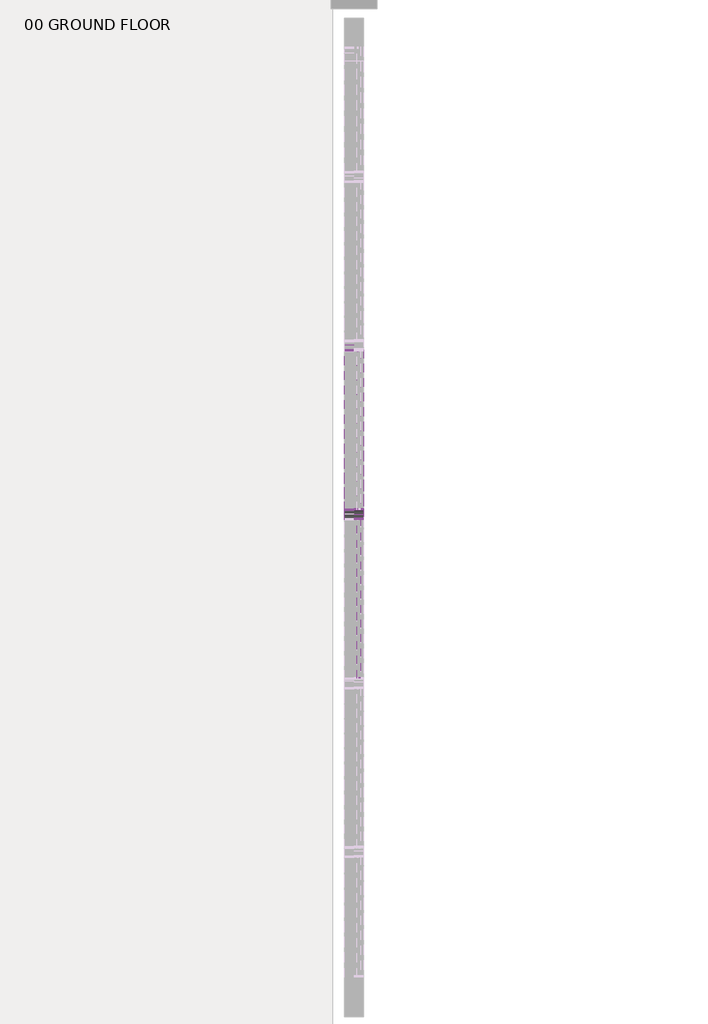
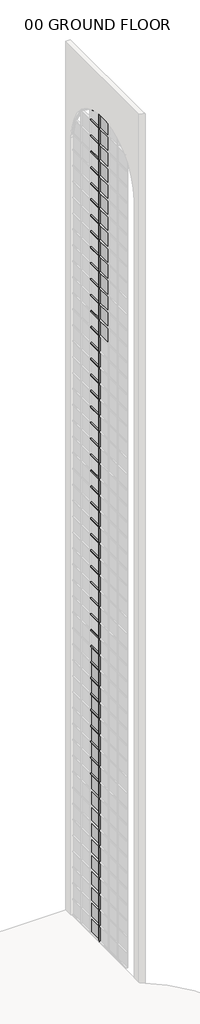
# One storey, part 29 of 33: 95 members, 32 plates.
"""IFC4 building model written with IfcOpenShell, lengths in millimetres."""

from ifc_helpers import new_model, si_unit, origin, place, context, project, spatial, transform, mapped, element, save
from components import member_d1490fb0, member_2b49869a, member_3adf77c9, member_5ea67813, system_panel_glazed_c90b0923, system_panel_glazed_ba000c98, system_panel_glazed_49d2a459

model = new_model("IFC4")

# Units and contexts
model_context = context("Model", 3, world=origin())
ifc_project = project(units=[si_unit("LENGTHUNIT", "METRE", prefix="MILLI")], contexts=[model_context])

# Site, building, storey
site = spatial("IfcSite", under=ifc_project)
building = spatial("IfcBuilding", under=site)
storey = spatial("IfcBuildingStorey", under=building, Name="00 GROUND FLOOR", Elevation=0.0)

# Members
placement = place(None, origin())
member_shape = member_d1490fb0(model_context)
element("IfcMember", 1, ObjectType="Rectangular Mullion : 2.5\" x 5\" rectangular", at=placement, inside=storey, context=model_context, shape_type="MappedRepresentation", body=[
    mapped(member_shape, transform((44184.4050515, 29709.3821428, 12192.0), x_axis=(0.0, 0.0, 1.0), y_axis=(-1.0, 0.0, 0.0), z_axis=(0.0, -1.0, 0.0))),
])
element("IfcMember", 2, ObjectType="Rectangular Mullion : 2.5\" x 5\" rectangular", at=placement, inside=storey, context=model_context, shape_type="MappedRepresentation", body=[
    mapped(member_shape, transform((44184.4050515, 29709.3821428, 13411.2), x_axis=(0.0, 0.0, 1.0), y_axis=(-1.0, 0.0, 0.0), z_axis=(0.0, -1.0, 0.0))),
])
element("IfcMember", 3, ObjectType="Rectangular Mullion : 2.5\" x 5\" rectangular", at=placement, inside=storey, context=model_context, shape_type="MappedRepresentation", body=[
    mapped(member_shape, transform((44184.4050515, 29709.3821428, 14630.4), x_axis=(0.0, 0.0, 1.0), y_axis=(-1.0, 0.0, 0.0), z_axis=(0.0, -1.0, 0.0))),
])
element("IfcMember", 4, ObjectType="Rectangular Mullion : 2.5\" x 5\" rectangular", at=placement, inside=storey, context=model_context, shape_type="MappedRepresentation", body=[
    mapped(member_shape, transform((44184.4050515, 29709.3821428, 15849.6), x_axis=(0.0, 0.0, 1.0), y_axis=(-1.0, 0.0, 0.0), z_axis=(0.0, -1.0, 0.0))),
])
element("IfcMember", 5, ObjectType="Rectangular Mullion : 2.5\" x 5\" rectangular", at=placement, inside=storey, context=model_context, shape_type="MappedRepresentation", body=[
    mapped(member_shape, transform((44184.4050515, 29709.3821428, 17068.8), x_axis=(0.0, 0.0, 1.0), y_axis=(-1.0, 0.0, 0.0), z_axis=(0.0, -1.0, 0.0))),
])
element("IfcMember", 6, ObjectType="Rectangular Mullion : 2.5\" x 5\" rectangular", at=placement, inside=storey, context=model_context, shape_type="MappedRepresentation", body=[
    mapped(member_shape, transform((44184.4050515, 29709.3821428, 18288.0), x_axis=(0.0, 0.0, 1.0), y_axis=(-1.0, 0.0, 0.0), z_axis=(0.0, -1.0, 0.0))),
])
element("IfcMember", 7, ObjectType="Rectangular Mullion : 2.5\" x 5\" rectangular", at=placement, inside=storey, context=model_context, shape_type="MappedRepresentation", body=[
    mapped(member_shape, transform((44184.4050515, 29709.3821428, 19507.2), x_axis=(0.0, 0.0, 1.0), y_axis=(-1.0, 0.0, 0.0), z_axis=(0.0, -1.0, 0.0))),
])
element("IfcMember", 8, ObjectType="Rectangular Mullion : 2.5\" x 5\" rectangular", at=placement, inside=storey, context=model_context, shape_type="MappedRepresentation", body=[
    mapped(member_shape, transform((44184.4050515, 29709.3821428, 20726.4), x_axis=(0.0, 0.0, 1.0), y_axis=(-1.0, 0.0, 0.0), z_axis=(0.0, -1.0, 0.0))),
])
element("IfcMember", 9, ObjectType="Rectangular Mullion : 2.5\" x 5\" rectangular", at=placement, inside=storey, context=model_context, shape_type="MappedRepresentation", body=[
    mapped(member_shape, transform((44184.4050515, 29709.3821428, 21945.6), x_axis=(0.0, 0.0, 1.0), y_axis=(-1.0, 0.0, 0.0), z_axis=(0.0, -1.0, 0.0))),
])
element("IfcMember", 10, ObjectType="Rectangular Mullion : 2.5\" x 5\" rectangular", at=placement, inside=storey, context=model_context, shape_type="MappedRepresentation", body=[
    mapped(member_shape, transform((44184.4050515, 29709.3821428, 23164.8), x_axis=(0.0, 0.0, 1.0), y_axis=(-1.0, 0.0, 0.0), z_axis=(0.0, -1.0, 0.0))),
])
element("IfcMember", 11, ObjectType="Rectangular Mullion : 2.5\" x 5\" rectangular", at=placement, inside=storey, context=model_context, shape_type="MappedRepresentation", body=[
    mapped(member_shape, transform((44184.4050515, 29709.3821428, 24384.0), x_axis=(0.0, 0.0, 1.0), y_axis=(-1.0, 0.0, 0.0), z_axis=(0.0, -1.0, 0.0))),
])
element("IfcMember", 12, ObjectType="Rectangular Mullion : 2.5\" x 5\" rectangular", at=placement, inside=storey, context=model_context, shape_type="MappedRepresentation", body=[
    mapped(member_shape, transform((44184.4050515, 29709.3821428, 25603.2), x_axis=(0.0, 0.0, 1.0), y_axis=(-1.0, 0.0, 0.0), z_axis=(0.0, -1.0, 0.0))),
])
element("IfcMember", 13, ObjectType="Rectangular Mullion : 2.5\" x 5\" rectangular", at=placement, inside=storey, context=model_context, shape_type="MappedRepresentation", body=[
    mapped(member_shape, transform((44184.4050515, 29709.3821428, 26822.4), x_axis=(0.0, 0.0, 1.0), y_axis=(-1.0, 0.0, 0.0), z_axis=(0.0, -1.0, 0.0))),
])
element("IfcMember", 14, ObjectType="Rectangular Mullion : 2.5\" x 5\" rectangular", at=placement, inside=storey, context=model_context, shape_type="MappedRepresentation", body=[
    mapped(member_shape, transform((44184.4050515, 29709.3821428, 28041.6), x_axis=(0.0, 0.0, 1.0), y_axis=(-1.0, 0.0, 0.0), z_axis=(0.0, -1.0, 0.0))),
])
element("IfcMember", 15, ObjectType="Rectangular Mullion : 2.5\" x 5\" rectangular", at=placement, inside=storey, context=model_context, shape_type="MappedRepresentation", body=[
    mapped(member_shape, transform((44184.4050515, 29709.3821428, 29260.8), x_axis=(0.0, 0.0, 1.0), y_axis=(-1.0, 0.0, 0.0), z_axis=(0.0, -1.0, 0.0))),
])
element("IfcMember", 16, ObjectType="Rectangular Mullion : 2.5\" x 5\" rectangular", at=placement, inside=storey, context=model_context, shape_type="MappedRepresentation", body=[
    mapped(member_shape, transform((44184.4050515, 29709.3821428, 30480.0), x_axis=(0.0, 0.0, 1.0), y_axis=(-1.0, 0.0, 0.0), z_axis=(0.0, -1.0, 0.0))),
])
element("IfcMember", 17, ObjectType="Rectangular Mullion : 2.5\" x 5\" rectangular", at=placement, inside=storey, context=model_context, shape_type="MappedRepresentation", body=[
    mapped(member_shape, transform((44184.4050515, 29709.3821428, 31699.2), x_axis=(0.0, 0.0, 1.0), y_axis=(-1.0, 0.0, 0.0), z_axis=(0.0, -1.0, 0.0))),
])
element("IfcMember", 18, ObjectType="Rectangular Mullion : 2.5\" x 5\" rectangular", at=placement, inside=storey, context=model_context, shape_type="MappedRepresentation", body=[
    mapped(member_shape, transform((44184.4050515, 29709.3821428, 32918.4), x_axis=(0.0, 0.0, 1.0), y_axis=(-1.0, 0.0, 0.0), z_axis=(0.0, -1.0, 0.0))),
])
element("IfcMember", 19, ObjectType="Rectangular Mullion : 2.5\" x 5\" rectangular", at=placement, inside=storey, context=model_context, shape_type="MappedRepresentation", body=[
    mapped(member_shape, transform((44184.4050515, 29709.3821428, 34137.6), x_axis=(0.0, 0.0, 1.0), y_axis=(-1.0, 0.0, 0.0), z_axis=(0.0, -1.0, 0.0))),
])
element("IfcMember", 20, ObjectType="Rectangular Mullion : 2.5\" x 5\" rectangular", at=placement, inside=storey, context=model_context, shape_type="MappedRepresentation", body=[
    mapped(member_shape, transform((44184.4050515, 29709.3821428, 35356.8), x_axis=(0.0, 0.0, 1.0), y_axis=(-1.0, 0.0, 0.0), z_axis=(0.0, -1.0, 0.0))),
])
element("IfcMember", 21, ObjectType="Rectangular Mullion : 2.5\" x 5\" rectangular", at=placement, inside=storey, context=model_context, shape_type="MappedRepresentation", body=[
    mapped(member_shape, transform((44184.4050515, 29709.3821428, 36576.0), x_axis=(0.0, 0.0, 1.0), y_axis=(-1.0, 0.0, 0.0), z_axis=(0.0, -1.0, 0.0))),
])
element("IfcMember", 22, ObjectType="Rectangular Mullion : 2.5\" x 5\" rectangular", at=placement, inside=storey, context=model_context, shape_type="MappedRepresentation", body=[
    mapped(member_shape, transform((44184.4050515, 29709.3821428, 37795.2), x_axis=(0.0, 0.0, 1.0), y_axis=(-1.0, 0.0, 0.0), z_axis=(0.0, -1.0, 0.0))),
])
element("IfcMember", 23, ObjectType="Rectangular Mullion : 2.5\" x 5\" rectangular", at=placement, inside=storey, context=model_context, shape_type="MappedRepresentation", body=[
    mapped(member_shape, transform((44184.4050515, 29709.3821428, 39014.4), x_axis=(0.0, 0.0, 1.0), y_axis=(-1.0, 0.0, 0.0), z_axis=(0.0, -1.0, 0.0))),
])
element("IfcMember", 24, ObjectType="Rectangular Mullion : 2.5\" x 5\" rectangular", at=placement, inside=storey, context=model_context, shape_type="MappedRepresentation", body=[
    mapped(member_shape, transform((44184.4050515, 29709.3821428, 40233.6), x_axis=(0.0, 0.0, 1.0), y_axis=(-1.0, 0.0, 0.0), z_axis=(0.0, -1.0, 0.0))),
])
element("IfcMember", 25, ObjectType="Rectangular Mullion : 2.5\" x 5\" rectangular", at=placement, inside=storey, context=model_context, shape_type="MappedRepresentation", body=[
    mapped(member_shape, transform((44184.4050515, 29709.3821428, 41452.8), x_axis=(0.0, 0.0, 1.0), y_axis=(-1.0, 0.0, 0.0), z_axis=(0.0, -1.0, 0.0))),
])
element("IfcMember", 26, ObjectType="Rectangular Mullion : 2.5\" x 5\" rectangular", at=placement, inside=storey, context=model_context, shape_type="MappedRepresentation", body=[
    mapped(member_shape, transform((44184.4050515, 29709.3821428, 42672.0), x_axis=(0.0, 0.0, 1.0), y_axis=(-1.0, 0.0, 0.0), z_axis=(0.0, -1.0, 0.0))),
])
element("IfcMember", 27, ObjectType="Rectangular Mullion : 2.5\" x 5\" rectangular", at=placement, inside=storey, context=model_context, shape_type="MappedRepresentation", body=[
    mapped(member_shape, transform((44184.4050515, 29709.3821428, 43891.2), x_axis=(0.0, 0.0, 1.0), y_axis=(-1.0, 0.0, 0.0), z_axis=(0.0, -1.0, 0.0))),
])
element("IfcMember", 28, ObjectType="Rectangular Mullion : 2.5\" x 5\" rectangular", at=placement, inside=storey, context=model_context, shape_type="MappedRepresentation", body=[
    mapped(member_shape, transform((44184.4050515, 29709.3821428, 45110.4), x_axis=(0.0, 0.0, 1.0), y_axis=(-1.0, 0.0, 0.0), z_axis=(0.0, -1.0, 0.0))),
])
element("IfcMember", 29, ObjectType="Rectangular Mullion : 2.5\" x 5\" rectangular", at=placement, inside=storey, context=model_context, shape_type="MappedRepresentation", body=[
    mapped(member_shape, transform((44184.4050515, 29709.3821428, 46329.6), x_axis=(0.0, 0.0, 1.0), y_axis=(-1.0, 0.0, 0.0), z_axis=(0.0, -1.0, 0.0))),
])
element("IfcMember", 30, ObjectType="Rectangular Mullion : 2.5\" x 5\" rectangular", at=placement, inside=storey, context=model_context, shape_type="MappedRepresentation", body=[
    mapped(member_shape, transform((44184.4050515, 29709.3821428, 47548.8), x_axis=(0.0, 0.0, 1.0), y_axis=(-1.0, 0.0, 0.0), z_axis=(0.0, -1.0, 0.0))),
])
element("IfcMember", 31, ObjectType="Rectangular Mullion : 2.5\" x 5\" rectangular", at=placement, inside=storey, context=model_context, shape_type="MappedRepresentation", body=[
    mapped(member_shape, transform((44184.4050515, 29709.3821428, 48768.0), x_axis=(0.0, 0.0, 1.0), y_axis=(-1.0, 0.0, 0.0), z_axis=(0.0, -1.0, 0.0))),
])
element("IfcMember", 32, ObjectType="Rectangular Mullion : 2.5\" x 5\" rectangular", at=placement, inside=storey, context=model_context, shape_type="MappedRepresentation", body=[
    mapped(member_shape, transform((44184.4050515, 29709.3821428, 49987.2), x_axis=(0.0, 0.0, 1.0), y_axis=(-1.0, 0.0, 0.0), z_axis=(0.0, -1.0, 0.0))),
])
element("IfcMember", 33, ObjectType="Rectangular Mullion : 2.5\" x 5\" rectangular", at=placement, inside=storey, context=model_context, shape_type="MappedRepresentation", body=[
    mapped(member_shape, transform((44184.4050515, 29709.3821428, 51206.4), x_axis=(0.0, 0.0, 1.0), y_axis=(-1.0, 0.0, 0.0), z_axis=(0.0, -1.0, 0.0))),
])
element("IfcMember", 34, ObjectType="Rectangular Mullion : 2.5\" x 5\" rectangular", at=placement, inside=storey, context=model_context, shape_type="MappedRepresentation", body=[
    mapped(member_shape, transform((44184.4050515, 29709.3821428, 52425.6), x_axis=(0.0, 0.0, 1.0), y_axis=(-1.0, 0.0, 0.0), z_axis=(0.0, -1.0, 0.0))),
])
element("IfcMember", 35, ObjectType="Rectangular Mullion : 2.5\" x 5\" rectangular", at=placement, inside=storey, context=model_context, shape_type="MappedRepresentation", body=[
    mapped(member_shape, transform((44184.4050515, 29709.3821428, 53644.8), x_axis=(0.0, 0.0, 1.0), y_axis=(-1.0, 0.0, 0.0), z_axis=(0.0, -1.0, 0.0))),
])
element("IfcMember", 36, ObjectType="Rectangular Mullion : 2.5\" x 5\" rectangular", at=placement, inside=storey, context=model_context, shape_type="MappedRepresentation", body=[
    mapped(member_shape, transform((44184.4050515, 29709.3821428, 54864.0), x_axis=(0.0, 0.0, 1.0), y_axis=(-1.0, 0.0, 0.0), z_axis=(0.0, -1.0, 0.0))),
])
element("IfcMember", 37, ObjectType="Rectangular Mullion : 2.5\" x 5\" rectangular", at=placement, inside=storey, context=model_context, shape_type="MappedRepresentation", body=[
    mapped(member_shape, transform((44184.4050515, 29709.3821428, 56083.2), x_axis=(0.0, 0.0, 1.0), y_axis=(-1.0, 0.0, 0.0), z_axis=(0.0, -1.0, 0.0))),
])
element("IfcMember", 38, ObjectType="Rectangular Mullion : 2.5\" x 5\" rectangular", at=placement, inside=storey, context=model_context, shape_type="MappedRepresentation", body=[
    mapped(member_shape, transform((44184.4050515, 29709.3821428, 57302.4), x_axis=(0.0, 0.0, 1.0), y_axis=(-1.0, 0.0, 0.0), z_axis=(0.0, -1.0, 0.0))),
])
element("IfcMember", 39, ObjectType="Rectangular Mullion : 2.5\" x 5\" rectangular", at=placement, inside=storey, context=model_context, shape_type="MappedRepresentation", body=[
    mapped(member_shape, transform((44184.4050515, 29709.3821428, 58521.6), x_axis=(0.0, 0.0, 1.0), y_axis=(-1.0, 0.0, 0.0), z_axis=(0.0, -1.0, 0.0))),
])
element("IfcMember", 40, ObjectType="Rectangular Mullion : 2.5\" x 5\" rectangular", at=placement, inside=storey, context=model_context, shape_type="MappedRepresentation", body=[
    mapped(member_shape, transform((44184.4050515, 29709.3821428, 59740.8), x_axis=(0.0, 0.0, 1.0), y_axis=(-1.0, 0.0, 0.0), z_axis=(0.0, -1.0, 0.0))),
])
element("IfcMember", 41, ObjectType="Rectangular Mullion : 2.5\" x 5\" rectangular", at=placement, inside=storey, context=model_context, shape_type="MappedRepresentation", body=[
    mapped(member_shape, transform((44184.4050515, 29709.3821428, 60960.0), x_axis=(0.0, 0.0, 1.0), y_axis=(-1.0, 0.0, 0.0), z_axis=(0.0, -1.0, 0.0))),
])
element("IfcMember", 42, ObjectType="Rectangular Mullion : 2.5\" x 5\" rectangular", at=placement, inside=storey, context=model_context, shape_type="MappedRepresentation", body=[
    mapped(member_shape, transform((44184.4050515, 29709.3821428, 62179.2), x_axis=(0.0, 0.0, 1.0), y_axis=(-1.0, 0.0, 0.0), z_axis=(0.0, -1.0, 0.0))),
])
member_2_shape = member_2b49869a(model_context)
element("IfcMember", 43, ObjectType="Rectangular Mullion : 2.5\" x 5\" rectangular", at=placement, inside=storey, context=model_context, shape_type="MappedRepresentation", body=[
    mapped(member_2_shape, transform((44184.4050515, 29677.6321428, 0.0), x_axis=(0.0, -1.0, 0.0), y_axis=(-1.0, 0.0, 0.0), z_axis=(0.0, 0.0, -1.0))),
])
element("IfcMember", 44, ObjectType="Rectangular Mullion : 2.5\" x 5\" rectangular", at=placement, inside=storey, context=model_context, shape_type="MappedRepresentation", body=[
    mapped(member_2_shape, transform((44184.4050515, 29677.6321428, 1219.2), x_axis=(0.0, -1.0, 0.0), y_axis=(-1.0, 0.0, 0.0), z_axis=(0.0, 0.0, -1.0))),
])
element("IfcMember", 45, ObjectType="Rectangular Mullion : 2.5\" x 5\" rectangular", at=placement, inside=storey, context=model_context, shape_type="MappedRepresentation", body=[
    mapped(member_2_shape, transform((44184.4050515, 29677.6321428, 2438.4), x_axis=(0.0, -1.0, 0.0), y_axis=(-1.0, 0.0, 0.0), z_axis=(0.0, 0.0, -1.0))),
])
element("IfcMember", 46, ObjectType="Rectangular Mullion : 2.5\" x 5\" rectangular", at=placement, inside=storey, context=model_context, shape_type="MappedRepresentation", body=[
    mapped(member_2_shape, transform((44184.4050515, 29677.6321428, 3657.6), x_axis=(0.0, -1.0, 0.0), y_axis=(-1.0, 0.0, 0.0), z_axis=(0.0, 0.0, -1.0))),
])
element("IfcMember", 47, ObjectType="Rectangular Mullion : 2.5\" x 5\" rectangular", at=placement, inside=storey, context=model_context, shape_type="MappedRepresentation", body=[
    mapped(member_2_shape, transform((44184.4050515, 29677.6321428, 4876.8), x_axis=(0.0, -1.0, 0.0), y_axis=(-1.0, 0.0, 0.0), z_axis=(0.0, 0.0, -1.0))),
])
element("IfcMember", 48, ObjectType="Rectangular Mullion : 2.5\" x 5\" rectangular", at=placement, inside=storey, context=model_context, shape_type="MappedRepresentation", body=[
    mapped(member_2_shape, transform((44184.4050515, 29677.6321428, 6096.0), x_axis=(0.0, -1.0, 0.0), y_axis=(-1.0, 0.0, 0.0), z_axis=(0.0, 0.0, -1.0))),
])
element("IfcMember", 49, ObjectType="Rectangular Mullion : 2.5\" x 5\" rectangular", at=placement, inside=storey, context=model_context, shape_type="MappedRepresentation", body=[
    mapped(member_2_shape, transform((44184.4050515, 29677.6321428, 7315.2), x_axis=(0.0, -1.0, 0.0), y_axis=(-1.0, 0.0, 0.0), z_axis=(0.0, 0.0, -1.0))),
])
element("IfcMember", 50, ObjectType="Rectangular Mullion : 2.5\" x 5\" rectangular", at=placement, inside=storey, context=model_context, shape_type="MappedRepresentation", body=[
    mapped(member_2_shape, transform((44184.4050515, 29677.6321428, 8534.4), x_axis=(0.0, -1.0, 0.0), y_axis=(-1.0, 0.0, 0.0), z_axis=(0.0, 0.0, -1.0))),
])
element("IfcMember", 51, ObjectType="Rectangular Mullion : 2.5\" x 5\" rectangular", at=placement, inside=storey, context=model_context, shape_type="MappedRepresentation", body=[
    mapped(member_2_shape, transform((44184.4050515, 29677.6321428, 9753.6), x_axis=(0.0, -1.0, 0.0), y_axis=(-1.0, 0.0, 0.0), z_axis=(0.0, 0.0, -1.0))),
])
element("IfcMember", 52, ObjectType="Rectangular Mullion : 2.5\" x 5\" rectangular", at=placement, inside=storey, context=model_context, shape_type="MappedRepresentation", body=[
    mapped(member_2_shape, transform((44184.4050515, 29677.6321428, 10972.8), x_axis=(0.0, -1.0, 0.0), y_axis=(-1.0, 0.0, 0.0), z_axis=(0.0, 0.0, -1.0))),
])
element("IfcMember", 53, ObjectType="Rectangular Mullion : 2.5\" x 5\" rectangular", at=placement, inside=storey, context=model_context, shape_type="MappedRepresentation", body=[
    mapped(member_2_shape, transform((44184.4050515, 29677.6321428, 12192.0), x_axis=(0.0, -1.0, 0.0), y_axis=(-1.0, 0.0, 0.0), z_axis=(0.0, 0.0, -1.0))),
])
element("IfcMember", 54, ObjectType="Rectangular Mullion : 2.5\" x 5\" rectangular", at=placement, inside=storey, context=model_context, shape_type="MappedRepresentation", body=[
    mapped(member_2_shape, transform((44184.4050515, 29677.6321428, 13411.2), x_axis=(0.0, -1.0, 0.0), y_axis=(-1.0, 0.0, 0.0), z_axis=(0.0, 0.0, -1.0))),
])
element("IfcMember", 55, ObjectType="Rectangular Mullion : 2.5\" x 5\" rectangular", at=placement, inside=storey, context=model_context, shape_type="MappedRepresentation", body=[
    mapped(member_2_shape, transform((44184.4050515, 29677.6321428, 14630.4), x_axis=(0.0, -1.0, 0.0), y_axis=(-1.0, 0.0, 0.0), z_axis=(0.0, 0.0, -1.0))),
])
element("IfcMember", 56, ObjectType="Rectangular Mullion : 2.5\" x 5\" rectangular", at=placement, inside=storey, context=model_context, shape_type="MappedRepresentation", body=[
    mapped(member_2_shape, transform((44184.4050515, 29677.6321428, 15849.6), x_axis=(0.0, -1.0, 0.0), y_axis=(-1.0, 0.0, 0.0), z_axis=(0.0, 0.0, -1.0))),
])
element("IfcMember", 57, ObjectType="Rectangular Mullion : 2.5\" x 5\" rectangular", at=placement, inside=storey, context=model_context, shape_type="MappedRepresentation", body=[
    mapped(member_2_shape, transform((44184.4050515, 29677.6321428, 17068.8), x_axis=(0.0, -1.0, 0.0), y_axis=(-1.0, 0.0, 0.0), z_axis=(0.0, 0.0, -1.0))),
])
element("IfcMember", 58, ObjectType="Rectangular Mullion : 2.5\" x 5\" rectangular", at=placement, inside=storey, context=model_context, shape_type="MappedRepresentation", body=[
    mapped(member_2_shape, transform((44184.4050515, 29677.6321428, 18288.0), x_axis=(0.0, -1.0, 0.0), y_axis=(-1.0, 0.0, 0.0), z_axis=(0.0, 0.0, -1.0))),
])
element("IfcMember", 59, ObjectType="Rectangular Mullion : 2.5\" x 5\" rectangular", at=placement, inside=storey, context=model_context, shape_type="MappedRepresentation", body=[
    mapped(member_2_shape, transform((44184.4050515, 29677.6321428, 19507.2), x_axis=(0.0, -1.0, 0.0), y_axis=(-1.0, 0.0, 0.0), z_axis=(0.0, 0.0, -1.0))),
])
element("IfcMember", 60, ObjectType="Rectangular Mullion : 2.5\" x 5\" rectangular", at=placement, inside=storey, context=model_context, shape_type="MappedRepresentation", body=[
    mapped(member_2_shape, transform((44184.4050515, 29677.6321428, 20726.4), x_axis=(0.0, -1.0, 0.0), y_axis=(-1.0, 0.0, 0.0), z_axis=(0.0, 0.0, -1.0))),
])
element("IfcMember", 61, ObjectType="Rectangular Mullion : 2.5\" x 5\" rectangular", at=placement, inside=storey, context=model_context, shape_type="MappedRepresentation", body=[
    mapped(member_2_shape, transform((44184.4050515, 29677.6321428, 21945.6), x_axis=(0.0, -1.0, 0.0), y_axis=(-1.0, 0.0, 0.0), z_axis=(0.0, 0.0, -1.0))),
])
element("IfcMember", 62, ObjectType="Rectangular Mullion : 2.5\" x 5\" rectangular", at=placement, inside=storey, context=model_context, shape_type="MappedRepresentation", body=[
    mapped(member_2_shape, transform((44184.4050515, 29677.6321428, 23164.8), x_axis=(0.0, -1.0, 0.0), y_axis=(-1.0, 0.0, 0.0), z_axis=(0.0, 0.0, -1.0))),
])
element("IfcMember", 63, ObjectType="Rectangular Mullion : 2.5\" x 5\" rectangular", at=placement, inside=storey, context=model_context, shape_type="MappedRepresentation", body=[
    mapped(member_2_shape, transform((44184.4050515, 29677.6321428, 24384.0), x_axis=(0.0, -1.0, 0.0), y_axis=(-1.0, 0.0, 0.0), z_axis=(0.0, 0.0, -1.0))),
])
element("IfcMember", 64, ObjectType="Rectangular Mullion : 2.5\" x 5\" rectangular", at=placement, inside=storey, context=model_context, shape_type="MappedRepresentation", body=[
    mapped(member_2_shape, transform((44184.4050515, 29677.6321428, 25603.2), x_axis=(0.0, -1.0, 0.0), y_axis=(-1.0, 0.0, 0.0), z_axis=(0.0, 0.0, -1.0))),
])
element("IfcMember", 65, ObjectType="Rectangular Mullion : 2.5\" x 5\" rectangular", at=placement, inside=storey, context=model_context, shape_type="MappedRepresentation", body=[
    mapped(member_2_shape, transform((44184.4050515, 29677.6321428, 26822.4), x_axis=(0.0, -1.0, 0.0), y_axis=(-1.0, 0.0, 0.0), z_axis=(0.0, 0.0, -1.0))),
])
element("IfcMember", 66, ObjectType="Rectangular Mullion : 2.5\" x 5\" rectangular", at=placement, inside=storey, context=model_context, shape_type="MappedRepresentation", body=[
    mapped(member_2_shape, transform((44184.4050515, 29677.6321428, 28041.6), x_axis=(0.0, -1.0, 0.0), y_axis=(-1.0, 0.0, 0.0), z_axis=(0.0, 0.0, -1.0))),
])
element("IfcMember", 67, ObjectType="Rectangular Mullion : 2.5\" x 5\" rectangular", at=placement, inside=storey, context=model_context, shape_type="MappedRepresentation", body=[
    mapped(member_2_shape, transform((44184.4050515, 29677.6321428, 29260.8), x_axis=(0.0, -1.0, 0.0), y_axis=(-1.0, 0.0, 0.0), z_axis=(0.0, 0.0, -1.0))),
])
element("IfcMember", 68, ObjectType="Rectangular Mullion : 2.5\" x 5\" rectangular", at=placement, inside=storey, context=model_context, shape_type="MappedRepresentation", body=[
    mapped(member_2_shape, transform((44184.4050515, 29677.6321428, 30480.0), x_axis=(0.0, -1.0, 0.0), y_axis=(-1.0, 0.0, 0.0), z_axis=(0.0, 0.0, -1.0))),
])
element("IfcMember", 69, ObjectType="Rectangular Mullion : 2.5\" x 5\" rectangular", at=placement, inside=storey, context=model_context, shape_type="MappedRepresentation", body=[
    mapped(member_2_shape, transform((44184.4050515, 29677.6321428, 31699.2), x_axis=(0.0, -1.0, 0.0), y_axis=(-1.0, 0.0, 0.0), z_axis=(0.0, 0.0, -1.0))),
])
element("IfcMember", 70, ObjectType="Rectangular Mullion : 2.5\" x 5\" rectangular", at=placement, inside=storey, context=model_context, shape_type="MappedRepresentation", body=[
    mapped(member_2_shape, transform((44184.4050515, 29677.6321428, 32918.4), x_axis=(0.0, -1.0, 0.0), y_axis=(-1.0, 0.0, 0.0), z_axis=(0.0, 0.0, -1.0))),
])
element("IfcMember", 71, ObjectType="Rectangular Mullion : 2.5\" x 5\" rectangular", at=placement, inside=storey, context=model_context, shape_type="MappedRepresentation", body=[
    mapped(member_2_shape, transform((44184.4050515, 29677.6321428, 34137.6), x_axis=(0.0, -1.0, 0.0), y_axis=(-1.0, 0.0, 0.0), z_axis=(0.0, 0.0, -1.0))),
])
element("IfcMember", 72, ObjectType="Rectangular Mullion : 2.5\" x 5\" rectangular", at=placement, inside=storey, context=model_context, shape_type="MappedRepresentation", body=[
    mapped(member_2_shape, transform((44184.4050515, 29677.6321428, 35356.8), x_axis=(0.0, -1.0, 0.0), y_axis=(-1.0, 0.0, 0.0), z_axis=(0.0, 0.0, -1.0))),
])
element("IfcMember", 73, ObjectType="Rectangular Mullion : 2.5\" x 5\" rectangular", at=placement, inside=storey, context=model_context, shape_type="MappedRepresentation", body=[
    mapped(member_2_shape, transform((44184.4050515, 29677.6321428, 36576.0), x_axis=(0.0, -1.0, 0.0), y_axis=(-1.0, 0.0, 0.0), z_axis=(0.0, 0.0, -1.0))),
])
element("IfcMember", 74, ObjectType="Rectangular Mullion : 2.5\" x 5\" rectangular", at=placement, inside=storey, context=model_context, shape_type="MappedRepresentation", body=[
    mapped(member_2_shape, transform((44184.4050515, 29677.6321428, 37795.2), x_axis=(0.0, -1.0, 0.0), y_axis=(-1.0, 0.0, 0.0), z_axis=(0.0, 0.0, -1.0))),
])
element("IfcMember", 75, ObjectType="Rectangular Mullion : 2.5\" x 5\" rectangular", at=placement, inside=storey, context=model_context, shape_type="MappedRepresentation", body=[
    mapped(member_2_shape, transform((44184.4050515, 29677.6321428, 39014.4), x_axis=(0.0, -1.0, 0.0), y_axis=(-1.0, 0.0, 0.0), z_axis=(0.0, 0.0, -1.0))),
])
element("IfcMember", 76, ObjectType="Rectangular Mullion : 2.5\" x 5\" rectangular", at=placement, inside=storey, context=model_context, shape_type="MappedRepresentation", body=[
    mapped(member_2_shape, transform((44184.4050515, 29677.6321428, 40233.6), x_axis=(0.0, -1.0, 0.0), y_axis=(-1.0, 0.0, 0.0), z_axis=(0.0, 0.0, -1.0))),
])
element("IfcMember", 77, ObjectType="Rectangular Mullion : 2.5\" x 5\" rectangular", at=placement, inside=storey, context=model_context, shape_type="MappedRepresentation", body=[
    mapped(member_2_shape, transform((44184.4050515, 29677.6321428, 41452.8), x_axis=(0.0, -1.0, 0.0), y_axis=(-1.0, 0.0, 0.0), z_axis=(0.0, 0.0, -1.0))),
])
element("IfcMember", 78, ObjectType="Rectangular Mullion : 2.5\" x 5\" rectangular", at=placement, inside=storey, context=model_context, shape_type="MappedRepresentation", body=[
    mapped(member_2_shape, transform((44184.4050515, 29677.6321428, 42672.0), x_axis=(0.0, -1.0, 0.0), y_axis=(-1.0, 0.0, 0.0), z_axis=(0.0, 0.0, -1.0))),
])
element("IfcMember", 79, ObjectType="Rectangular Mullion : 2.5\" x 5\" rectangular", at=placement, inside=storey, context=model_context, shape_type="MappedRepresentation", body=[
    mapped(member_2_shape, transform((44184.4050515, 29677.6321428, 43891.2), x_axis=(0.0, -1.0, 0.0), y_axis=(-1.0, 0.0, 0.0), z_axis=(0.0, 0.0, -1.0))),
])
element("IfcMember", 80, ObjectType="Rectangular Mullion : 2.5\" x 5\" rectangular", at=placement, inside=storey, context=model_context, shape_type="MappedRepresentation", body=[
    mapped(member_2_shape, transform((44184.4050515, 29677.6321428, 45110.4), x_axis=(0.0, -1.0, 0.0), y_axis=(-1.0, 0.0, 0.0), z_axis=(0.0, 0.0, -1.0))),
])
element("IfcMember", 81, ObjectType="Rectangular Mullion : 2.5\" x 5\" rectangular", at=placement, inside=storey, context=model_context, shape_type="MappedRepresentation", body=[
    mapped(member_2_shape, transform((44184.4050515, 29677.6321428, 46329.6), x_axis=(0.0, -1.0, 0.0), y_axis=(-1.0, 0.0, 0.0), z_axis=(0.0, 0.0, -1.0))),
])
element("IfcMember", 82, ObjectType="Rectangular Mullion : 2.5\" x 5\" rectangular", at=placement, inside=storey, context=model_context, shape_type="MappedRepresentation", body=[
    mapped(member_2_shape, transform((44184.4050515, 29677.6321428, 47548.8), x_axis=(0.0, -1.0, 0.0), y_axis=(-1.0, 0.0, 0.0), z_axis=(0.0, 0.0, -1.0))),
])
element("IfcMember", 83, ObjectType="Rectangular Mullion : 2.5\" x 5\" rectangular", at=placement, inside=storey, context=model_context, shape_type="MappedRepresentation", body=[
    mapped(member_2_shape, transform((44184.4050515, 29677.6321428, 48768.0), x_axis=(0.0, -1.0, 0.0), y_axis=(-1.0, 0.0, 0.0), z_axis=(0.0, 0.0, -1.0))),
])
element("IfcMember", 84, ObjectType="Rectangular Mullion : 2.5\" x 5\" rectangular", at=placement, inside=storey, context=model_context, shape_type="MappedRepresentation", body=[
    mapped(member_2_shape, transform((44184.4050515, 29677.6321428, 49987.2), x_axis=(0.0, -1.0, 0.0), y_axis=(-1.0, 0.0, 0.0), z_axis=(0.0, 0.0, -1.0))),
])
element("IfcMember", 85, ObjectType="Rectangular Mullion : 2.5\" x 5\" rectangular", at=placement, inside=storey, context=model_context, shape_type="MappedRepresentation", body=[
    mapped(member_2_shape, transform((44184.4050515, 29677.6321428, 51206.4), x_axis=(0.0, -1.0, 0.0), y_axis=(-1.0, 0.0, 0.0), z_axis=(0.0, 0.0, -1.0))),
])
element("IfcMember", 86, ObjectType="Rectangular Mullion : 2.5\" x 5\" rectangular", at=placement, inside=storey, context=model_context, shape_type="MappedRepresentation", body=[
    mapped(member_2_shape, transform((44184.4050515, 29677.6321428, 52425.6), x_axis=(0.0, -1.0, 0.0), y_axis=(-1.0, 0.0, 0.0), z_axis=(0.0, 0.0, -1.0))),
])
element("IfcMember", 87, ObjectType="Rectangular Mullion : 2.5\" x 5\" rectangular", at=placement, inside=storey, context=model_context, shape_type="MappedRepresentation", body=[
    mapped(member_2_shape, transform((44184.4050515, 29677.6321428, 53644.8), x_axis=(0.0, -1.0, 0.0), y_axis=(-1.0, 0.0, 0.0), z_axis=(0.0, 0.0, -1.0))),
])
element("IfcMember", 88, ObjectType="Rectangular Mullion : 2.5\" x 5\" rectangular", at=placement, inside=storey, context=model_context, shape_type="MappedRepresentation", body=[
    mapped(member_2_shape, transform((44184.4050515, 29677.6321428, 54864.0), x_axis=(0.0, -1.0, 0.0), y_axis=(-1.0, 0.0, 0.0), z_axis=(0.0, 0.0, -1.0))),
])
element("IfcMember", 89, ObjectType="Rectangular Mullion : 2.5\" x 5\" rectangular", at=placement, inside=storey, context=model_context, shape_type="MappedRepresentation", body=[
    mapped(member_2_shape, transform((44184.4050515, 29677.6321428, 56083.2), x_axis=(0.0, -1.0, 0.0), y_axis=(-1.0, 0.0, 0.0), z_axis=(0.0, 0.0, -1.0))),
])
element("IfcMember", 90, ObjectType="Rectangular Mullion : 2.5\" x 5\" rectangular", at=placement, inside=storey, context=model_context, shape_type="MappedRepresentation", body=[
    mapped(member_2_shape, transform((44184.4050515, 29677.6321428, 57302.4), x_axis=(0.0, -1.0, 0.0), y_axis=(-1.0, 0.0, 0.0), z_axis=(0.0, 0.0, -1.0))),
])
element("IfcMember", 91, ObjectType="Rectangular Mullion : 2.5\" x 5\" rectangular", at=placement, inside=storey, context=model_context, shape_type="MappedRepresentation", body=[
    mapped(member_2_shape, transform((44184.4050515, 29677.6321428, 58521.6), x_axis=(0.0, -1.0, 0.0), y_axis=(-1.0, 0.0, 0.0), z_axis=(0.0, 0.0, -1.0))),
])
element("IfcMember", 92, ObjectType="Rectangular Mullion : 2.5\" x 5\" rectangular", at=placement, inside=storey, context=model_context, shape_type="MappedRepresentation", body=[
    mapped(member_2_shape, transform((44184.4050515, 29677.6321428, 59740.8), x_axis=(0.0, -1.0, 0.0), y_axis=(-1.0, 0.0, 0.0), z_axis=(0.0, 0.0, -1.0))),
])
element("IfcMember", 93, ObjectType="Rectangular Mullion : 2.5\" x 5\" rectangular", at=placement, inside=storey, context=model_context, shape_type="MappedRepresentation", body=[
    mapped(member_2_shape, transform((44184.4050515, 29677.6321428, 60960.0), x_axis=(0.0, -1.0, 0.0), y_axis=(-1.0, 0.0, 0.0), z_axis=(0.0, 0.0, -1.0))),
])
member_3_shape = member_3adf77c9(model_context)
element("IfcMember", 94, ObjectType="Rectangular Mullion : 2.5\" x 5\" rectangular", at=placement, inside=storey, context=model_context, shape_type="MappedRepresentation", body=[
    mapped(member_3_shape, transform((44184.4050515, 29677.6321428, 63357.7589257), x_axis=(0.0, 0.14285714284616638, 0.9897433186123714), y_axis=(-1.0, 0.0, 0.0), z_axis=(0.0, -0.9897433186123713, 0.14285714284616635))),
])
member_4_shape = member_5ea67813(model_context)
element("IfcMember", 95, ObjectType="Rectangular Mullion : 2.5\" x 5\" rectangular", at=placement, inside=storey, context=model_context, shape_type="MappedRepresentation", body=[
    mapped(member_4_shape, transform((44184.4050515, 29677.6321428, 62179.2), x_axis=(0.0, -1.0, 0.0), y_axis=(-1.0, 0.0, 0.0), z_axis=(0.0, 0.0, -1.0))),
])

# Plates
system_panel_glazed_shape = system_panel_glazed_c90b0923(model_context)
element("IfcPlate", 96, ObjectType="System Panel : Glazed", at=placement, inside=storey, context=model_context, shape_type="MappedRepresentation", body=[
    mapped(system_panel_glazed_shape, transform((44184.4050515, 30243.6892856, 63.5), x_axis=(0.0, -1.0, 0.0), y_axis=(1.0, 0.0, 0.0), z_axis=(0.0, 0.0, 1.0))),
])
system_panel_glazed_2_shape = system_panel_glazed_ba000c98(model_context)
element("IfcPlate", 97, ObjectType="System Panel : Glazed", at=placement, inside=storey, context=model_context, shape_type="MappedRepresentation", body=[
    mapped(system_panel_glazed_2_shape, transform((44184.4050515, 30243.6892856, 1250.95), x_axis=(0.0, -1.0, 0.0), y_axis=(1.0, 0.0, 0.0), z_axis=(0.0, 0.0, 1.0))),
])
element("IfcPlate", 98, ObjectType="System Panel : Glazed", at=placement, inside=storey, context=model_context, shape_type="MappedRepresentation", body=[
    mapped(system_panel_glazed_2_shape, transform((44184.4050515, 30243.6892856, 2470.15), x_axis=(0.0, -1.0, 0.0), y_axis=(1.0, 0.0, 0.0), z_axis=(0.0, 0.0, 1.0))),
])
element("IfcPlate", 99, ObjectType="System Panel : Glazed", at=placement, inside=storey, context=model_context, shape_type="MappedRepresentation", body=[
    mapped(system_panel_glazed_2_shape, transform((44184.4050515, 30243.6892856, 3689.35), x_axis=(0.0, -1.0, 0.0), y_axis=(1.0, 0.0, 0.0), z_axis=(0.0, 0.0, 1.0))),
])
element("IfcPlate", 100, ObjectType="System Panel : Glazed", at=placement, inside=storey, context=model_context, shape_type="MappedRepresentation", body=[
    mapped(system_panel_glazed_2_shape, transform((44184.4050515, 30243.6892856, 4908.55), x_axis=(0.0, -1.0, 0.0), y_axis=(1.0, 0.0, 0.0), z_axis=(0.0, 0.0, 1.0))),
])
element("IfcPlate", 101, ObjectType="System Panel : Glazed", at=placement, inside=storey, context=model_context, shape_type="MappedRepresentation", body=[
    mapped(system_panel_glazed_2_shape, transform((44184.4050515, 30243.6892856, 6127.75), x_axis=(0.0, -1.0, 0.0), y_axis=(1.0, 0.0, 0.0), z_axis=(0.0, 0.0, 1.0))),
])
element("IfcPlate", 102, ObjectType="System Panel : Glazed", at=placement, inside=storey, context=model_context, shape_type="MappedRepresentation", body=[
    mapped(system_panel_glazed_2_shape, transform((44184.4050515, 30243.6892856, 7346.95), x_axis=(0.0, -1.0, 0.0), y_axis=(1.0, 0.0, 0.0), z_axis=(0.0, 0.0, 1.0))),
])
element("IfcPlate", 103, ObjectType="System Panel : Glazed", at=placement, inside=storey, context=model_context, shape_type="MappedRepresentation", body=[
    mapped(system_panel_glazed_2_shape, transform((44184.4050515, 30243.6892856, 8566.15), x_axis=(0.0, -1.0, 0.0), y_axis=(1.0, 0.0, 0.0), z_axis=(0.0, 0.0, 1.0))),
])
element("IfcPlate", 104, ObjectType="System Panel : Glazed", at=placement, inside=storey, context=model_context, shape_type="MappedRepresentation", body=[
    mapped(system_panel_glazed_2_shape, transform((44184.4050515, 30243.6892856, 9785.35), x_axis=(0.0, -1.0, 0.0), y_axis=(1.0, 0.0, 0.0), z_axis=(0.0, 0.0, 1.0))),
])
element("IfcPlate", 105, ObjectType="System Panel : Glazed", at=placement, inside=storey, context=model_context, shape_type="MappedRepresentation", body=[
    mapped(system_panel_glazed_2_shape, transform((44184.4050515, 30243.6892856, 11004.55), x_axis=(0.0, -1.0, 0.0), y_axis=(1.0, 0.0, 0.0), z_axis=(0.0, 0.0, 1.0))),
])
element("IfcPlate", 106, ObjectType="System Panel : Glazed", at=placement, inside=storey, context=model_context, shape_type="MappedRepresentation", body=[
    mapped(system_panel_glazed_2_shape, transform((44184.4050515, 30243.6892856, 12223.75), x_axis=(0.0, -1.0, 0.0), y_axis=(1.0, 0.0, 0.0), z_axis=(0.0, 0.0, 1.0))),
])
element("IfcPlate", 107, ObjectType="System Panel : Glazed", at=placement, inside=storey, context=model_context, shape_type="MappedRepresentation", body=[
    mapped(system_panel_glazed_2_shape, transform((44184.4050515, 30243.6892856, 13442.95), x_axis=(0.0, -1.0, 0.0), y_axis=(1.0, 0.0, 0.0), z_axis=(0.0, 0.0, 1.0))),
])
element("IfcPlate", 108, ObjectType="System Panel : Glazed", at=placement, inside=storey, context=model_context, shape_type="MappedRepresentation", body=[
    mapped(system_panel_glazed_2_shape, transform((44184.4050515, 30243.6892856, 14662.15), x_axis=(0.0, -1.0, 0.0), y_axis=(1.0, 0.0, 0.0), z_axis=(0.0, 0.0, 1.0))),
])
element("IfcPlate", 109, ObjectType="System Panel : Glazed", at=placement, inside=storey, context=model_context, shape_type="MappedRepresentation", body=[
    mapped(system_panel_glazed_2_shape, transform((44184.4050515, 30243.6892856, 15881.35), x_axis=(0.0, -1.0, 0.0), y_axis=(1.0, 0.0, 0.0), z_axis=(0.0, 0.0, 1.0))),
])
element("IfcPlate", 110, ObjectType="System Panel : Glazed", at=placement, inside=storey, context=model_context, shape_type="MappedRepresentation", body=[
    mapped(system_panel_glazed_2_shape, transform((44184.4050515, 30243.6892856, 17100.55), x_axis=(0.0, -1.0, 0.0), y_axis=(1.0, 0.0, 0.0), z_axis=(0.0, 0.0, 1.0))),
])
element("IfcPlate", 111, ObjectType="System Panel : Glazed", at=placement, inside=storey, context=model_context, shape_type="MappedRepresentation", body=[
    mapped(system_panel_glazed_2_shape, transform((44184.4050515, 30243.6892856, 18319.75), x_axis=(0.0, -1.0, 0.0), y_axis=(1.0, 0.0, 0.0), z_axis=(0.0, 0.0, 1.0))),
])
element("IfcPlate", 112, ObjectType="System Panel : Glazed", at=placement, inside=storey, context=model_context, shape_type="MappedRepresentation", body=[
    mapped(system_panel_glazed_2_shape, transform((44184.4050515, 30243.6892856, 19538.95), x_axis=(0.0, -1.0, 0.0), y_axis=(1.0, 0.0, 0.0), z_axis=(0.0, 0.0, 1.0))),
])
element("IfcPlate", 113, ObjectType="System Panel : Glazed", at=placement, inside=storey, context=model_context, shape_type="MappedRepresentation", body=[
    mapped(system_panel_glazed_2_shape, transform((44184.4050515, 30243.6892856, 20758.15), x_axis=(0.0, -1.0, 0.0), y_axis=(1.0, 0.0, 0.0), z_axis=(0.0, 0.0, 1.0))),
])
element("IfcPlate", 114, ObjectType="System Panel : Glazed", at=placement, inside=storey, context=model_context, shape_type="MappedRepresentation", body=[
    mapped(system_panel_glazed_2_shape, transform((44184.4050515, 29111.575, 46361.35), x_axis=(0.0, -1.0, 0.0), y_axis=(1.0, 0.0, 0.0), z_axis=(0.0, 0.0, 1.0))),
])
element("IfcPlate", 115, ObjectType="System Panel : Glazed", at=placement, inside=storey, context=model_context, shape_type="MappedRepresentation", body=[
    mapped(system_panel_glazed_2_shape, transform((44184.4050515, 29111.575, 47580.55), x_axis=(0.0, -1.0, 0.0), y_axis=(1.0, 0.0, 0.0), z_axis=(0.0, 0.0, 1.0))),
])
element("IfcPlate", 116, ObjectType="System Panel : Glazed", at=placement, inside=storey, context=model_context, shape_type="MappedRepresentation", body=[
    mapped(system_panel_glazed_2_shape, transform((44184.4050515, 29111.575, 48799.75), x_axis=(0.0, -1.0, 0.0), y_axis=(1.0, 0.0, 0.0), z_axis=(0.0, 0.0, 1.0))),
])
element("IfcPlate", 117, ObjectType="System Panel : Glazed", at=placement, inside=storey, context=model_context, shape_type="MappedRepresentation", body=[
    mapped(system_panel_glazed_2_shape, transform((44184.4050515, 29111.575, 50018.95), x_axis=(0.0, -1.0, 0.0), y_axis=(1.0, 0.0, 0.0), z_axis=(0.0, 0.0, 1.0))),
])
element("IfcPlate", 118, ObjectType="System Panel : Glazed", at=placement, inside=storey, context=model_context, shape_type="MappedRepresentation", body=[
    mapped(system_panel_glazed_2_shape, transform((44184.4050515, 29111.575, 51238.15), x_axis=(0.0, -1.0, 0.0), y_axis=(1.0, 0.0, 0.0), z_axis=(0.0, 0.0, 1.0))),
])
element("IfcPlate", 119, ObjectType="System Panel : Glazed", at=placement, inside=storey, context=model_context, shape_type="MappedRepresentation", body=[
    mapped(system_panel_glazed_2_shape, transform((44184.4050515, 29111.575, 52457.35), x_axis=(0.0, -1.0, 0.0), y_axis=(1.0, 0.0, 0.0), z_axis=(0.0, 0.0, 1.0))),
])
element("IfcPlate", 120, ObjectType="System Panel : Glazed", at=placement, inside=storey, context=model_context, shape_type="MappedRepresentation", body=[
    mapped(system_panel_glazed_2_shape, transform((44184.4050515, 29111.575, 53676.55), x_axis=(0.0, -1.0, 0.0), y_axis=(1.0, 0.0, 0.0), z_axis=(0.0, 0.0, 1.0))),
])
element("IfcPlate", 121, ObjectType="System Panel : Glazed", at=placement, inside=storey, context=model_context, shape_type="MappedRepresentation", body=[
    mapped(system_panel_glazed_2_shape, transform((44184.4050515, 29111.575, 54895.75), x_axis=(0.0, -1.0, 0.0), y_axis=(1.0, 0.0, 0.0), z_axis=(0.0, 0.0, 1.0))),
])
element("IfcPlate", 122, ObjectType="System Panel : Glazed", at=placement, inside=storey, context=model_context, shape_type="MappedRepresentation", body=[
    mapped(system_panel_glazed_2_shape, transform((44184.4050515, 29111.575, 56114.95), x_axis=(0.0, -1.0, 0.0), y_axis=(1.0, 0.0, 0.0), z_axis=(0.0, 0.0, 1.0))),
])
element("IfcPlate", 123, ObjectType="System Panel : Glazed", at=placement, inside=storey, context=model_context, shape_type="MappedRepresentation", body=[
    mapped(system_panel_glazed_2_shape, transform((44184.4050515, 29111.575, 57334.15), x_axis=(0.0, -1.0, 0.0), y_axis=(1.0, 0.0, 0.0), z_axis=(0.0, 0.0, 1.0))),
])
element("IfcPlate", 124, ObjectType="System Panel : Glazed", at=placement, inside=storey, context=model_context, shape_type="MappedRepresentation", body=[
    mapped(system_panel_glazed_2_shape, transform((44184.4050515, 29111.575, 58553.35), x_axis=(0.0, -1.0, 0.0), y_axis=(1.0, 0.0, 0.0), z_axis=(0.0, 0.0, 1.0))),
])
element("IfcPlate", 125, ObjectType="System Panel : Glazed", at=placement, inside=storey, context=model_context, shape_type="MappedRepresentation", body=[
    mapped(system_panel_glazed_2_shape, transform((44184.4050515, 29111.575, 59772.55), x_axis=(0.0, -1.0, 0.0), y_axis=(1.0, 0.0, 0.0), z_axis=(0.0, 0.0, 1.0))),
])
element("IfcPlate", 126, ObjectType="System Panel : Glazed", at=placement, inside=storey, context=model_context, shape_type="MappedRepresentation", body=[
    mapped(system_panel_glazed_2_shape, transform((44184.4050515, 29111.575, 60991.75), x_axis=(0.0, -1.0, 0.0), y_axis=(1.0, 0.0, 0.0), z_axis=(0.0, 0.0, 1.0))),
])
system_panel_glazed_3_shape = system_panel_glazed_49d2a459(model_context)
element("IfcPlate", 127, ObjectType="System Panel : Glazed", at=placement, inside=storey, context=model_context, shape_type="MappedRepresentation", body=[
    mapped(system_panel_glazed_3_shape, transform((44184.4050515, 29111.575, 62210.95), x_axis=(0.0, -1.0, 0.0), y_axis=(1.0, 0.0, 0.0), z_axis=(0.0, 0.0, 1.0))),
])

save(model, "model.ifc")
